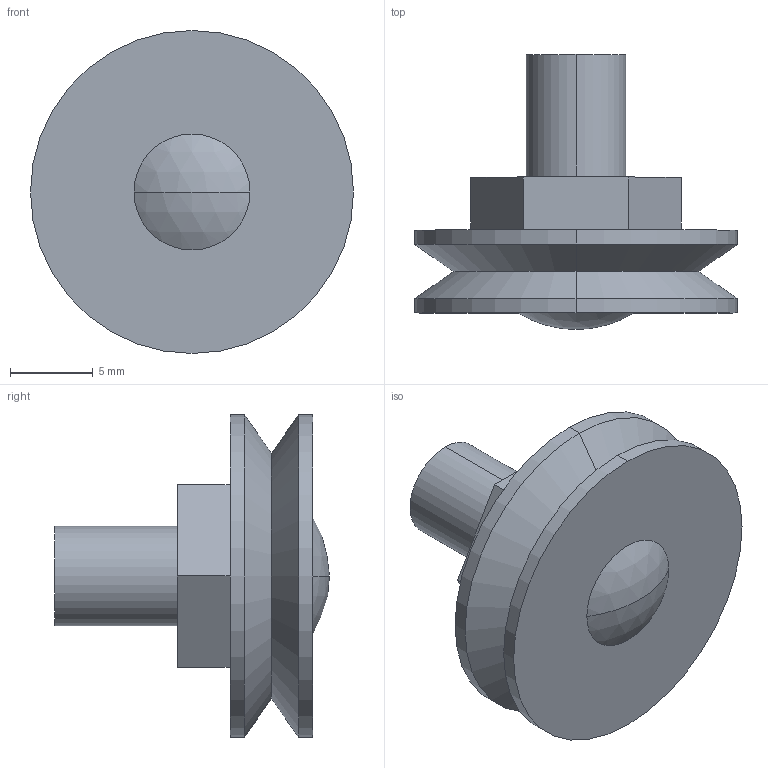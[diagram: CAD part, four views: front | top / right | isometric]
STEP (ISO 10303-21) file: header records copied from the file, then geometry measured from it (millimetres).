
FILE_DESCRIPTION(('STEP AP203'),'1');
FILE_NAME('gbhj_195_c_ns.stp','2020-09-28T12:05:29',('TraceParts'),('TraceParts S.A.'),'Spatial InterOp 3D',' ',' ');
FILE_SCHEMA(('CONFIG_CONTROL_DESIGN'));
Length unit declared in the file: millimetre
Products named in the file (1): 1
Bounding box: 19.5 x 16.6 x 19.5 mm (x, y, z)
Volume: 1839.7 mm3; surface area: 1275.7 mm2
Topology: 1 solids, 1 shells, 22 faces, 46 edges, 29 vertices
Faces by surface type: plane 10, cylinder 6, cone 4, sphere 2
Entity records: 632 total; most frequent: DIRECTION 110, CARTESIAN_POINT 98, ORIENTED_EDGE 92, EDGE_CURVE 46, AXIS2_PLACEMENT_3D 41, VERTEX_POINT 29, LINE 28, VECTOR 28
